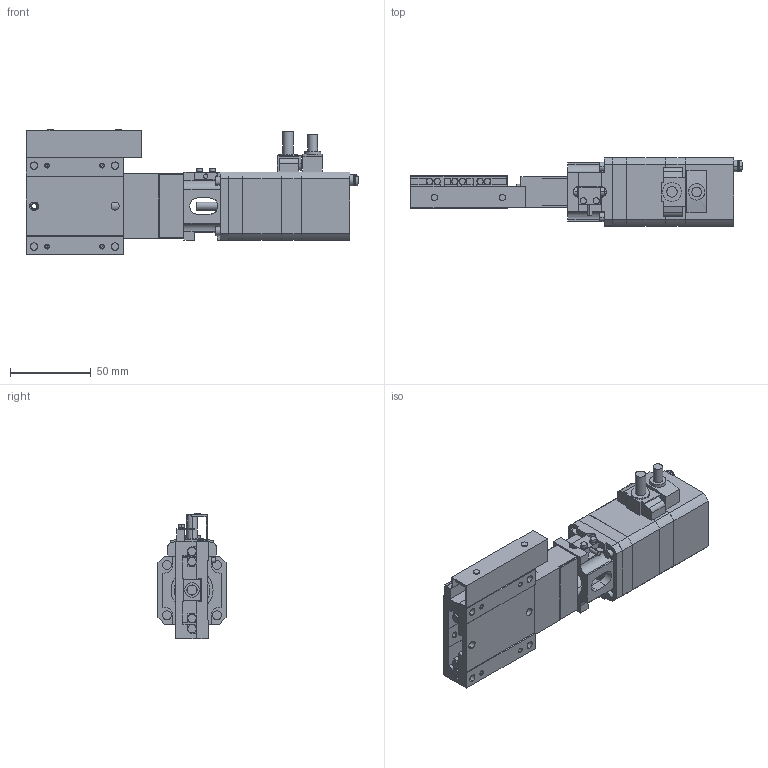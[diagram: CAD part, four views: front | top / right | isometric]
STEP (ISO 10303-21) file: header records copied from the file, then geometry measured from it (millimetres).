
FILE_DESCRIPTION(('STEP AP203'),'1');
FILE_NAME('C:/3D-Trans/3D_PG615T-L□-MA4+240118.step','2024-02-26T08:26:25',(' '),(' '),'Spatial InterOp 3D',' ',' ');
FILE_SCHEMA(('CONFIG_CONTROL_DESIGN'));
Length unit declared in the file: millimetre
Products named in the file (6): 1; 2; 3; 4; 5; 6
Bounding box: 205 x 42 x 77.4 mm (x, y, z)
Volume: 233349.5 mm3; surface area: 68638.9 mm2
Topology: 6 solids, 6 shells, 691 faces, 1765 edges, 1109 vertices
Faces by surface type: plane 378, cylinder 229, cone 80, torus 4
Entity records: 21197 total; most frequent: CARTESIAN_POINT 3823, DIRECTION 3671, ORIENTED_EDGE 3474, EDGE_CURVE 1737, AXIS2_PLACEMENT_3D 1251, LINE 1169, VECTOR 1169, VERTEX_POINT 1109
